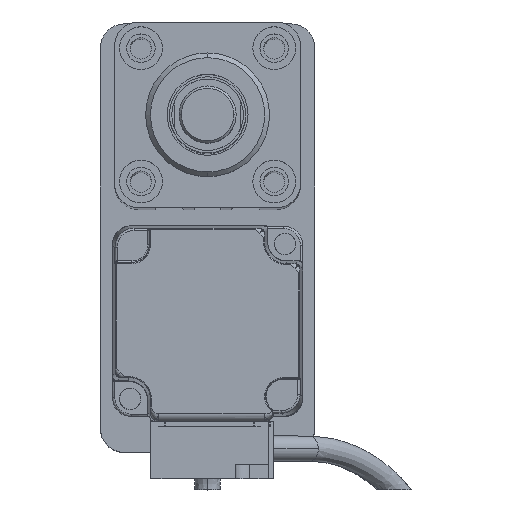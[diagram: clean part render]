
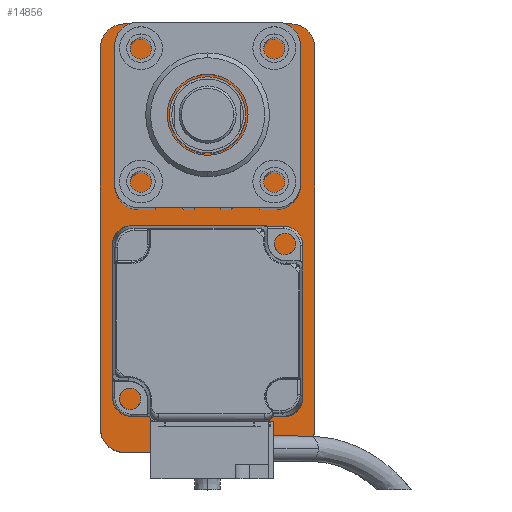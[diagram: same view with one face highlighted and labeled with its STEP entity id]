
A CAD part, top view. The second image highlights one B-rep face of the part: STEP entity #14856.
In plain terms, the highlighted planar face has unit normal (0, 0, 1).
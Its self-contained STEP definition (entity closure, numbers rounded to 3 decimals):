
#284 = DIRECTION ( 'NONE',  ( 0., 1., 0. ) ) ;
#442 = CARTESIAN_POINT ( 'NONE',  ( -22.5, 40., 10. ) ) ;
#767 = CIRCLE ( 'NONE', #14255, 5. ) ;
#1007 = LINE ( 'NONE', #19025, #29609 ) ;
#1280 = EDGE_CURVE ( 'NONE', #12463, #21314, #4770, .T. ) ;
#1508 = AXIS2_PLACEMENT_3D ( 'NONE', #9316, #29766, #15879 ) ;
#1569 = ORIENTED_EDGE ( 'NONE', *, *, #15793, .T. ) ;
#2110 = AXIS2_PLACEMENT_3D ( 'NONE', #17728, #15380, #15289 ) ;
#2379 = DIRECTION ( 'NONE',  ( 0., -1., 0. ) ) ;
#3657 = FACE_OUTER_BOUND ( 'NONE', #10585, .T. ) ;
#3868 = CARTESIAN_POINT ( 'NONE',  ( 17.5, 45., 10. ) ) ;
#3966 = DIRECTION ( 'NONE',  ( 1., 0., 0. ) ) ;
#4066 = CARTESIAN_POINT ( 'NONE',  ( 0., 0., 10. ) ) ;
#4619 = CARTESIAN_POINT ( 'NONE',  ( -22.5, -45., 10. ) ) ;
#4770 = LINE ( 'NONE', #4619, #20001 ) ;
#5307 = DIRECTION ( 'NONE',  ( 0., 0., 1. ) ) ;
#5601 = CARTESIAN_POINT ( 'NONE',  ( -17.5, -40., 10. ) ) ;
#6398 = DIRECTION ( 'NONE',  ( 0., 0., 1. ) ) ;
#6625 = ORIENTED_EDGE ( 'NONE', *, *, #22364, .T. ) ;
#7898 = AXIS2_PLACEMENT_3D ( 'NONE', #4066, #27574, #9130 ) ;
#8150 = DIRECTION ( 'NONE',  ( -1., 0., 0. ) ) ;
#8201 = CARTESIAN_POINT ( 'NONE',  ( -17.5, -45., 10. ) ) ;
#8659 = VERTEX_POINT ( 'NONE', #24566 ) ;
#9077 = ORIENTED_EDGE ( 'NONE', *, *, #12666, .T. ) ;
#9130 = DIRECTION ( 'NONE',  ( 1., 0., 0. ) ) ;
#9316 = CARTESIAN_POINT ( 'NONE',  ( 17.5, -40., 10. ) ) ;
#10162 = LINE ( 'NONE', #22082, #23628 ) ;
#10338 = CARTESIAN_POINT ( 'NONE',  ( 22.5, 40., 10. ) ) ;
#10547 = AXIS2_PLACEMENT_3D ( 'NONE', #5601, #5307, #14888 ) ;
#10585 = EDGE_LOOP ( 'NONE', ( #21448, #24317, #6625, #25775, #10891, #28138, #9077, #1569 ) ) ;
#10891 = ORIENTED_EDGE ( 'NONE', *, *, #1280, .T. ) ;
#11689 = CARTESIAN_POINT ( 'NONE',  ( 22.5, -45., 10. ) ) ;
#12364 = CIRCLE ( 'NONE', #10547, 5. ) ;
#12463 = VERTEX_POINT ( 'NONE', #442 ) ;
#12666 = EDGE_CURVE ( 'NONE', #15710, #20455, #1007, .T. ) ;
#14255 = AXIS2_PLACEMENT_3D ( 'NONE', #29390, #6398, #3966 ) ;
#14420 = LINE ( 'NONE', #11689, #26058 ) ;
#14443 = DIRECTION ( 'NONE',  ( 1., 0., 0. ) ) ;
#14780 = EDGE_CURVE ( 'NONE', #29560, #28364, #767, .T. ) ;
#14856 = ADVANCED_FACE ( 'NONE', ( #3657 ), #15494, .T. ) ;
#14888 = DIRECTION ( 'NONE',  ( 1., 0., 0. ) ) ;
#15289 = DIRECTION ( 'NONE',  ( 1., 0., 0. ) ) ;
#15380 = DIRECTION ( 'NONE',  ( 0., 0., 1. ) ) ;
#15494 = PLANE ( 'NONE',  #7898 ) ;
#15710 = VERTEX_POINT ( 'NONE', #8201 ) ;
#15793 = EDGE_CURVE ( 'NONE', #20455, #8659, #23539, .T. ) ;
#15879 = DIRECTION ( 'NONE',  ( 1., 0., 0. ) ) ;
#16329 = EDGE_CURVE ( 'NONE', #8659, #29560, #14420, .T. ) ;
#17728 = CARTESIAN_POINT ( 'NONE',  ( -17.5, 40., 10. ) ) ;
#19025 = CARTESIAN_POINT ( 'NONE',  ( 22.5, -45., 10. ) ) ;
#19027 = CARTESIAN_POINT ( 'NONE',  ( -22.5, -40., 10. ) ) ;
#20001 = VECTOR ( 'NONE', #2379, 1000. ) ;
#20455 = VERTEX_POINT ( 'NONE', #27400 ) ;
#21314 = VERTEX_POINT ( 'NONE', #19027 ) ;
#21448 = ORIENTED_EDGE ( 'NONE', *, *, #16329, .T. ) ;
#22082 = CARTESIAN_POINT ( 'NONE',  ( 22.5, 45., 10. ) ) ;
#22364 = EDGE_CURVE ( 'NONE', #28364, #29132, #10162, .T. ) ;
#22636 = EDGE_CURVE ( 'NONE', #21314, #15710, #12364, .T. ) ;
#23539 = CIRCLE ( 'NONE', #1508, 5. ) ;
#23628 = VECTOR ( 'NONE', #8150, 1000. ) ;
#24317 = ORIENTED_EDGE ( 'NONE', *, *, #14780, .T. ) ;
#24566 = CARTESIAN_POINT ( 'NONE',  ( 22.5, -40., 10. ) ) ;
#25775 = ORIENTED_EDGE ( 'NONE', *, *, #28393, .T. ) ;
#25891 = CIRCLE ( 'NONE', #2110, 5. ) ;
#26058 = VECTOR ( 'NONE', #284, 1000. ) ;
#26323 = CARTESIAN_POINT ( 'NONE',  ( -17.5, 45., 10. ) ) ;
#27400 = CARTESIAN_POINT ( 'NONE',  ( 17.5, -45., 10. ) ) ;
#27574 = DIRECTION ( 'NONE',  ( 0., 0., 1. ) ) ;
#28138 = ORIENTED_EDGE ( 'NONE', *, *, #22636, .T. ) ;
#28364 = VERTEX_POINT ( 'NONE', #3868 ) ;
#28393 = EDGE_CURVE ( 'NONE', #29132, #12463, #25891, .T. ) ;
#29132 = VERTEX_POINT ( 'NONE', #26323 ) ;
#29390 = CARTESIAN_POINT ( 'NONE',  ( 17.5, 40., 10. ) ) ;
#29560 = VERTEX_POINT ( 'NONE', #10338 ) ;
#29609 = VECTOR ( 'NONE', #14443, 1000. ) ;
#29766 = DIRECTION ( 'NONE',  ( 0., 0., 1. ) ) ;
